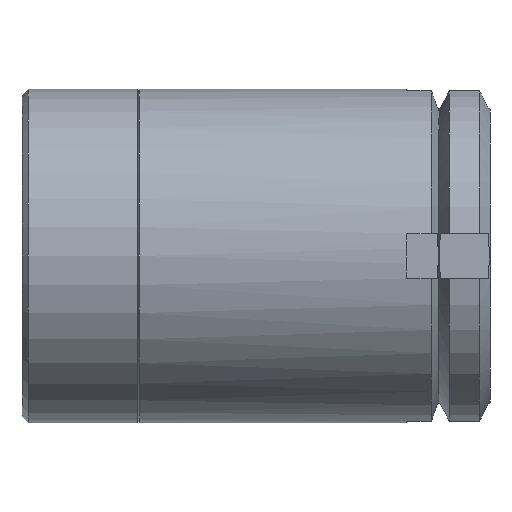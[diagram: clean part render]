
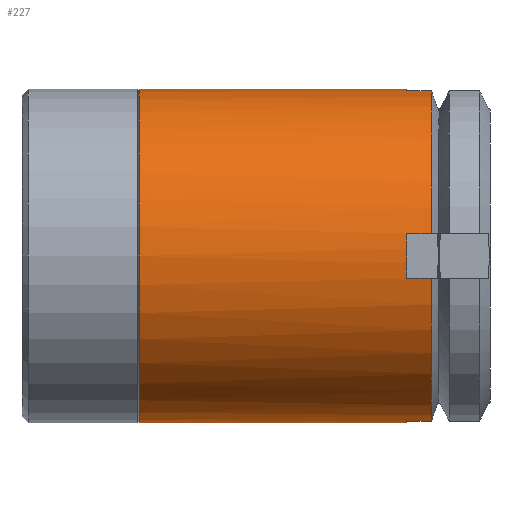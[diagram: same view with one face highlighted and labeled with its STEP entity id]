
A CAD part, front view. The second image highlights one B-rep face of the part: STEP entity #227.
In plain terms, the highlighted cylindrical face has radius 26 mm (diameter 52 mm), a full revolution.
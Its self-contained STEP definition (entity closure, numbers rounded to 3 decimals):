
#227 = ADVANCED_FACE( '', ( #342, #343 ), #344, .T. );
#342 = FACE_OUTER_BOUND( '', #527, .T. );
#343 = FACE_OUTER_BOUND( '', #528, .T. );
#344 = CYLINDRICAL_SURFACE( '', #529, 26. );
#527 = EDGE_LOOP( '', ( #756 ) );
#528 = EDGE_LOOP( '', ( #757, #758, #759, #760, #761, #762, #763, #764, #765, #766, #767, #768, #769, #770, #771, #772 ) );
#529 = AXIS2_PLACEMENT_3D( '', #773, #774, #775 );
#756 = ORIENTED_EDGE( '', *, *, #1157, .F. );
#757 = ORIENTED_EDGE( '', *, *, #1158, .F. );
#758 = ORIENTED_EDGE( '', *, *, #1159, .T. );
#759 = ORIENTED_EDGE( '', *, *, #1160, .T. );
#760 = ORIENTED_EDGE( '', *, *, #1161, .F. );
#761 = ORIENTED_EDGE( '', *, *, #1162, .F. );
#762 = ORIENTED_EDGE( '', *, *, #1163, .T. );
#763 = ORIENTED_EDGE( '', *, *, #1164, .T. );
#764 = ORIENTED_EDGE( '', *, *, #1165, .F. );
#765 = ORIENTED_EDGE( '', *, *, #1166, .F. );
#766 = ORIENTED_EDGE( '', *, *, #1143, .T. );
#767 = ORIENTED_EDGE( '', *, *, #1167, .T. );
#768 = ORIENTED_EDGE( '', *, *, #1168, .F. );
#769 = ORIENTED_EDGE( '', *, *, #1169, .F. );
#770 = ORIENTED_EDGE( '', *, *, #1170, .T. );
#771 = ORIENTED_EDGE( '', *, *, #1171, .T. );
#772 = ORIENTED_EDGE( '', *, *, #1172, .F. );
#773 = CARTESIAN_POINT( '', ( 0., 6.512, 0. ) );
#774 = DIRECTION( '', ( 0., 1., 0. ) );
#775 = DIRECTION( '', ( 0., 0., -1. ) );
#1143 = EDGE_CURVE( '', #1288, #1286, #1289, .T. );
#1157 = EDGE_CURVE( '', #1315, #1315, #1316, .T. );
#1158 = EDGE_CURVE( '', #1317, #1318, #1319, .T. );
#1159 = EDGE_CURVE( '', #1317, #1320, #1321, .T. );
#1160 = EDGE_CURVE( '', #1320, #1322, #1323, .T. );
#1161 = EDGE_CURVE( '', #1324, #1322, #1325, .T. );
#1162 = EDGE_CURVE( '', #1326, #1324, #1327, .T. );
#1163 = EDGE_CURVE( '', #1326, #1328, #1329, .T. );
#1164 = EDGE_CURVE( '', #1328, #1330, #1331, .T. );
#1165 = EDGE_CURVE( '', #1332, #1330, #1333, .T. );
#1166 = EDGE_CURVE( '', #1288, #1332, #1334, .T. );
#1167 = EDGE_CURVE( '', #1286, #1335, #1336, .T. );
#1168 = EDGE_CURVE( '', #1337, #1335, #1338, .T. );
#1169 = EDGE_CURVE( '', #1339, #1337, #1340, .T. );
#1170 = EDGE_CURVE( '', #1339, #1341, #1342, .T. );
#1171 = EDGE_CURVE( '', #1341, #1343, #1344, .T. );
#1172 = EDGE_CURVE( '', #1318, #1343, #1345, .T. );
#1286 = VERTEX_POINT( '', #1522 );
#1288 = VERTEX_POINT( '', #1530 );
#1289 = LINE( '', #1531, #1532 );
#1315 = VERTEX_POINT( '', #1560 );
#1316 = CIRCLE( '', #1561, 26. );
#1317 = VERTEX_POINT( '', #1562 );
#1318 = VERTEX_POINT( '', #1563 );
#1319 = CIRCLE( '', #1564, 26. );
#1320 = VERTEX_POINT( '', #1565 );
#1321 = LINE( '', #1566, #1567 );
#1322 = VERTEX_POINT( '', #1568 );
#1323 = CIRCLE( '', #1569, 26. );
#1324 = VERTEX_POINT( '', #1570 );
#1325 = LINE( '', #1571, #1572 );
#1326 = VERTEX_POINT( '', #1573 );
#1327 = CIRCLE( '', #1574, 26. );
#1328 = VERTEX_POINT( '', #1575 );
#1329 = LINE( '', #1576, #1577 );
#1330 = VERTEX_POINT( '', #1578 );
#1331 = CIRCLE( '', #1579, 26. );
#1332 = VERTEX_POINT( '', #1580 );
#1333 = LINE( '', #1581, #1582 );
#1334 = CIRCLE( '', #1583, 26. );
#1335 = VERTEX_POINT( '', #1584 );
#1336 = CIRCLE( '', #1585, 26. );
#1337 = VERTEX_POINT( '', #1586 );
#1338 = LINE( '', #1587, #1588 );
#1339 = VERTEX_POINT( '', #1589 );
#1340 = CIRCLE( '', #1590, 26. );
#1341 = VERTEX_POINT( '', #1591 );
#1342 = LINE( '', #1592, #1593 );
#1343 = VERTEX_POINT( '', #1594 );
#1344 = CIRCLE( '', #1595, 26. );
#1345 = LINE( '', #1596, #1597 );
#1522 = CARTESIAN_POINT( '', ( -25.763, 63.841, -3.5 ) );
#1530 = CARTESIAN_POINT( '', ( -25.763, 60.001, -3.5 ) );
#1531 = CARTESIAN_POINT( '', ( -25.763, 60.001, -3.5 ) );
#1532 = VECTOR( '', #2006, 1000. );
#1560 = CARTESIAN_POINT( '', ( 0., 18.255, -26. ) );
#1561 = AXIS2_PLACEMENT_3D( '', #2042, #2043, #2044 );
#1562 = CARTESIAN_POINT( '', ( 25.763, 60.001, 3.5 ) );
#1563 = CARTESIAN_POINT( '', ( 25.763, 60.001, -3.5 ) );
#1564 = AXIS2_PLACEMENT_3D( '', #2045, #2046, #2047 );
#1565 = CARTESIAN_POINT( '', ( 25.763, 63.841, 3.5 ) );
#1566 = CARTESIAN_POINT( '', ( 25.763, 60.001, 3.5 ) );
#1567 = VECTOR( '', #2048, 1000. );
#1568 = CARTESIAN_POINT( '', ( 3.5, 63.841, 25.763 ) );
#1569 = AXIS2_PLACEMENT_3D( '', #2049, #2050, #2051 );
#1570 = CARTESIAN_POINT( '', ( 3.5, 60.001, 25.763 ) );
#1571 = CARTESIAN_POINT( '', ( 3.5, 60.001, 25.763 ) );
#1572 = VECTOR( '', #2052, 1000. );
#1573 = CARTESIAN_POINT( '', ( -3.5, 60.001, 25.763 ) );
#1574 = AXIS2_PLACEMENT_3D( '', #2053, #2054, #2055 );
#1575 = CARTESIAN_POINT( '', ( -3.5, 63.841, 25.763 ) );
#1576 = CARTESIAN_POINT( '', ( -3.5, 60.001, 25.763 ) );
#1577 = VECTOR( '', #2056, 1000. );
#1578 = CARTESIAN_POINT( '', ( -25.763, 63.841, 3.5 ) );
#1579 = AXIS2_PLACEMENT_3D( '', #2057, #2058, #2059 );
#1580 = CARTESIAN_POINT( '', ( -25.763, 60.001, 3.5 ) );
#1581 = CARTESIAN_POINT( '', ( -25.763, 60.001, 3.5 ) );
#1582 = VECTOR( '', #2060, 1000. );
#1583 = AXIS2_PLACEMENT_3D( '', #2061, #2062, #2063 );
#1584 = CARTESIAN_POINT( '', ( -3.5, 63.841, -25.763 ) );
#1585 = AXIS2_PLACEMENT_3D( '', #2064, #2065, #2066 );
#1586 = CARTESIAN_POINT( '', ( -3.5, 60.001, -25.763 ) );
#1587 = CARTESIAN_POINT( '', ( -3.5, 60.001, -25.763 ) );
#1588 = VECTOR( '', #2067, 1000. );
#1589 = CARTESIAN_POINT( '', ( 3.5, 60.001, -25.763 ) );
#1590 = AXIS2_PLACEMENT_3D( '', #2068, #2069, #2070 );
#1591 = CARTESIAN_POINT( '', ( 3.5, 63.841, -25.763 ) );
#1592 = CARTESIAN_POINT( '', ( 3.5, 60.001, -25.763 ) );
#1593 = VECTOR( '', #2071, 1000. );
#1594 = CARTESIAN_POINT( '', ( 25.763, 63.841, -3.5 ) );
#1595 = AXIS2_PLACEMENT_3D( '', #2072, #2073, #2074 );
#1596 = CARTESIAN_POINT( '', ( 25.763, 60.001, -3.5 ) );
#1597 = VECTOR( '', #2075, 1000. );
#2006 = DIRECTION( '', ( 0., 1., 0. ) );
#2042 = CARTESIAN_POINT( '', ( 0., 18.255, 0. ) );
#2043 = DIRECTION( '', ( 0., -1., 0. ) );
#2044 = DIRECTION( '', ( 0., 0., -1. ) );
#2045 = CARTESIAN_POINT( '', ( 0., 60.001, 0. ) );
#2046 = DIRECTION( '', ( 0., 1., 0. ) );
#2047 = DIRECTION( '', ( 0., 0., 1. ) );
#2048 = DIRECTION( '', ( 0., 1., 0. ) );
#2049 = CARTESIAN_POINT( '', ( 0., 63.841, 0. ) );
#2050 = DIRECTION( '', ( 0., -1., 0. ) );
#2051 = DIRECTION( '', ( 0., 0., -1. ) );
#2052 = DIRECTION( '', ( 0., 1., 0. ) );
#2053 = CARTESIAN_POINT( '', ( 0., 60.001, 0. ) );
#2054 = DIRECTION( '', ( 0., 1., 0. ) );
#2055 = DIRECTION( '', ( 0., 0., 1. ) );
#2056 = DIRECTION( '', ( 0., 1., 0. ) );
#2057 = CARTESIAN_POINT( '', ( 0., 63.841, 0. ) );
#2058 = DIRECTION( '', ( 0., -1., 0. ) );
#2059 = DIRECTION( '', ( 0., 0., -1. ) );
#2060 = DIRECTION( '', ( 0., 1., 0. ) );
#2061 = CARTESIAN_POINT( '', ( 0., 60.001, 0. ) );
#2062 = DIRECTION( '', ( 0., 1., 0. ) );
#2063 = DIRECTION( '', ( 0., 0., 1. ) );
#2064 = CARTESIAN_POINT( '', ( 0., 63.841, 0. ) );
#2065 = DIRECTION( '', ( 0., -1., 0. ) );
#2066 = DIRECTION( '', ( 0., 0., -1. ) );
#2067 = DIRECTION( '', ( 0., 1., 0. ) );
#2068 = CARTESIAN_POINT( '', ( 0., 60.001, 0. ) );
#2069 = DIRECTION( '', ( 0., 1., 0. ) );
#2070 = DIRECTION( '', ( 0., 0., 1. ) );
#2071 = DIRECTION( '', ( 0., 1., 0. ) );
#2072 = CARTESIAN_POINT( '', ( 0., 63.841, 0. ) );
#2073 = DIRECTION( '', ( 0., -1., 0. ) );
#2074 = DIRECTION( '', ( 0., 0., -1. ) );
#2075 = DIRECTION( '', ( 0., 1., 0. ) );
